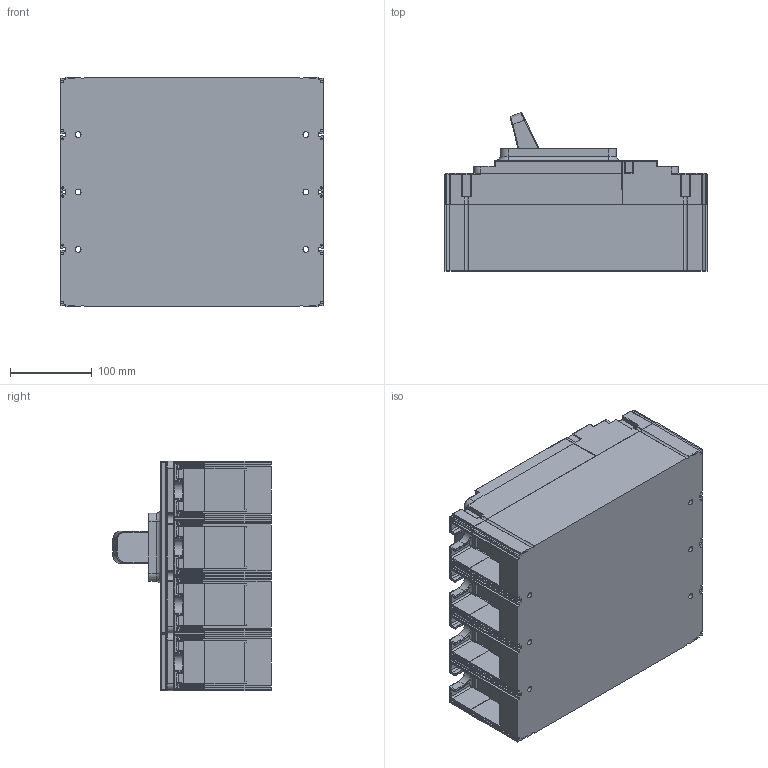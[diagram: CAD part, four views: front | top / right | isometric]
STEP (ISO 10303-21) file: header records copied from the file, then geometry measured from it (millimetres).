
FILE_DESCRIPTION((''),'2;1');
FILE_NAME('U8_HGP800X_800A_4P4D_RSTN_40_JJ_ASM','2016-09-08T',('HHI'),(''),'PRO/ENGINEER BY PARAMETRIC TECHNOLOGY CORPORATION, 2012453','PRO/ENGINEER BY PARAMETRIC TECHNOLOGY CORPORATION, 2012453','');
FILE_SCHEMA(('CONFIG_CONTROL_DESIGN'));
Products named in the file (17): U8_ON_OFF_PRINT_HANDLE_ASSY_ASM_ASM; U8_4P_HANDLE_ASSY_ASM_ASM; U8_4P_MECHANISM_ASSY_ASM_ASM; U8_4P_MAIN_ASSY_ASM_ASM; U8_4P_RSTN_MAIN_TOTAL_ASSY_ASM_ASM; U8_4P_800A_RSTN_TOTAL_BASE_ASSY_ASM; U8_4P_RSTN_MAIN_COVER; U8_4P_800A_RSTN_4P4D_TOTAL_ASSY_ASM; U8_TRIP_BUTTON; U8_FRONT_COVER_ASSY_ASM_ASM; U8_HGP800X_PRINTED_COVER_ASSY_A_ASM; U8_N_FRONT_COVER; BAS; TC; HA; FCO; U8_HGP800X_800A_4P4D_RSTN_40_JJ_ASM
Assembly tree (16 placements, depth 8):
  U8_HGP800X_800A_4P4D_RSTN_40_JJ_ASM
    U8_4P_800A_RSTN_4P4D_TOTAL_ASSY_ASM
      U8_4P_800A_RSTN_TOTAL_BASE_ASSY_ASM
        U8_4P_RSTN_MAIN_TOTAL_ASSY_ASM_ASM
          U8_4P_MAIN_ASSY_ASM_ASM
            U8_4P_MECHANISM_ASSY_ASM_ASM
              U8_4P_HANDLE_ASSY_ASM_ASM
                U8_ON_OFF_PRINT_HANDLE_ASSY_ASM_ASM
      U8_4P_RSTN_MAIN_COVER
    U8_HGP800X_PRINTED_COVER_ASSY_A_ASM
      U8_FRONT_COVER_ASSY_ASM_ASM
        U8_TRIP_BUTTON
    U8_N_FRONT_COVER
    BAS
    TC
    HA
    FCO
Bounding box: 320 x 193.26 x 280 mm (x, y, z)
Volume: 10425931 mm3; surface area: 907674.5 mm2
Topology: 7 solids, 64 shells, 4403 faces, 11120 edges, 6702 vertices
Faces by surface type: cylinder 1638, plane 1613, torus 433, sphere 283, bspline 273, cone 141, extrusion 22
Entity records: 153327 total; most frequent: CARTESIAN_POINT 48498, DIRECTION 22500, ORIENTED_EDGE 21664, EDGE_CURVE 10832, AXIS2_PLACEMENT_3D 8422, VERTEX_POINT 6702, VECTOR 5656, LINE 5634
